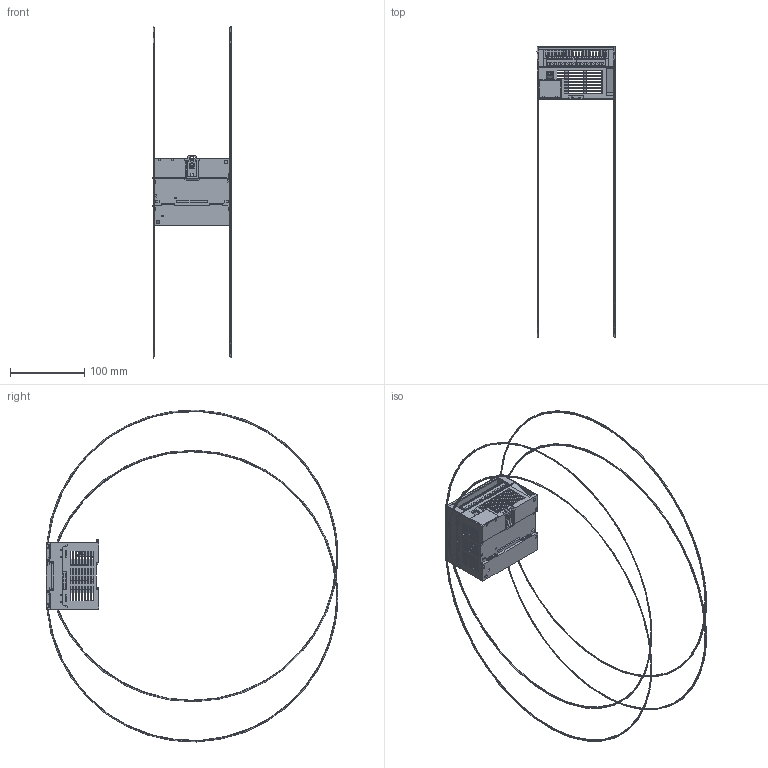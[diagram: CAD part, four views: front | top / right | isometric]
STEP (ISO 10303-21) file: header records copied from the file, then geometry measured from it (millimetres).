
FILE_DESCRIPTION((''),'2;1');
FILE_NAME('16POINTS-2','2023-05-25T14:09:18',('Cyclone_Aero15X'),(''),'CREO PARAMETRIC BY PTC INC, 2019080','CREO PARAMETRIC BY PTC INC, 2019080','');
FILE_SCHEMA(('CONFIG_CONTROL_DESIGN'));
Products named in the file (1): 16POINTS-2
Bounding box: 105.2 x 392.58 x 446.55 mm (x, y, z)
Surface area: 181250.1 mm2 (no closed solid volume)
Topology: 0 solids, 0 shells, 3321 faces, 19185 edges, 19134 vertices
Faces by surface type: plane 2570, cylinder 655, torus 48, bspline 29, extrusion 12, cone 4, sphere 3
Entity records: 292185 total; most frequent: CARTESIAN_POINT 66312, DIRECTION 43223, TRIMMED_CURVE 35070, VECTOR 33501, LINE 33489, DEFINITIONAL_REPRESENTATION 19086, PCURVE 19086, COMPOSITE_CURVE_SEGMENT 19086
